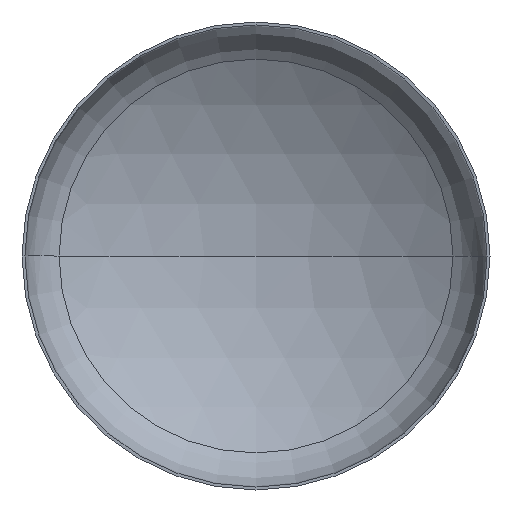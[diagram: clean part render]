
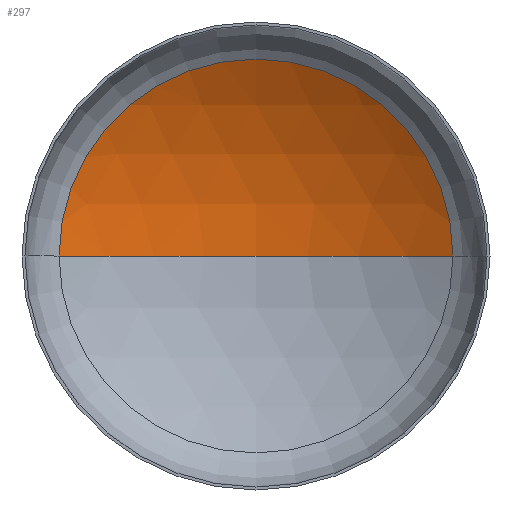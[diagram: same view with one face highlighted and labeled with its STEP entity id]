
A CAD part, front view. The second image highlights one B-rep face of the part: STEP entity #297.
In plain terms, the highlighted spherical face has radius 6000 mm.
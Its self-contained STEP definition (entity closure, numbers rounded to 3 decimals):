
#1 = VERTEX_POINT ( 'NONE', #190 ) ;
#23 = AXIS2_PLACEMENT_3D ( 'NONE', #322, #293, #310 ) ;
#36 = VERTEX_POINT ( 'NONE', #156 ) ;
#46 = ORIENTED_EDGE ( 'NONE', *, *, #137, .T. ) ;
#54 = ORIENTED_EDGE ( 'NONE', *, *, #139, .T. ) ;
#82 = AXIS2_PLACEMENT_3D ( 'NONE', #241, #240, #256 ) ;
#86 = AXIS2_PLACEMENT_3D ( 'NONE', #383, #339, #343 ) ;
#89 = AXIS2_PLACEMENT_3D ( 'NONE', #400, #395, #399 ) ;
#94 = ORIENTED_EDGE ( 'NONE', *, *, #142, .F. ) ;
#108 = EDGE_LOOP ( 'NONE', ( #94, #54, #46 ) ) ;
#123 = VERTEX_POINT ( 'NONE', #225 ) ;
#137 = EDGE_CURVE ( 'NONE', #1, #123, #376, .T. ) ;
#139 = EDGE_CURVE ( 'NONE', #36, #1, #309, .T. ) ;
#142 = EDGE_CURVE ( 'NONE', #36, #123, #185, .T. ) ;
#156 = CARTESIAN_POINT ( 'NONE',  ( 0., 2029.112, 0. ) ) ;
#185 = CIRCLE ( 'NONE', #82, 6000. ) ;
#190 = CARTESIAN_POINT ( 'NONE',  ( 3155.418, 1132.379, 0. ) ) ;
#225 = CARTESIAN_POINT ( 'NONE',  ( -3155.418, 1132.379, 0. ) ) ;
#240 = DIRECTION ( 'NONE',  ( 0., 0., 1. ) ) ;
#241 = CARTESIAN_POINT ( 'NONE',  ( 0., -3970.888, 0. ) ) ;
#256 = DIRECTION ( 'NONE',  ( 1., 0., 0. ) ) ;
#293 = DIRECTION ( 'NONE',  ( 0., 0., -1. ) ) ;
#297 = ADVANCED_FACE ( 'NONE', ( #398 ), #345, .F. ) ;
#309 = CIRCLE ( 'NONE', #86, 6000. ) ;
#310 = DIRECTION ( 'NONE',  ( -1., 0., 0. ) ) ;
#322 = CARTESIAN_POINT ( 'NONE',  ( 0., -3970.888, 0. ) ) ;
#339 = DIRECTION ( 'NONE',  ( 0., 0., -1. ) ) ;
#343 = DIRECTION ( 'NONE',  ( -1., 0., 0. ) ) ;
#345 = SPHERICAL_SURFACE ( 'NONE', #23, 6000. ) ;
#376 = CIRCLE ( 'NONE', #89, 3155.418 ) ;
#383 = CARTESIAN_POINT ( 'NONE',  ( 0., -3970.888, 0. ) ) ;
#395 = DIRECTION ( 'NONE',  ( 0., -1., 0. ) ) ;
#398 = FACE_OUTER_BOUND ( 'NONE', #108, .T. ) ;
#399 = DIRECTION ( 'NONE',  ( 1., 0., 0. ) ) ;
#400 = CARTESIAN_POINT ( 'NONE',  ( 0., 1132.379, 0. ) ) ;
